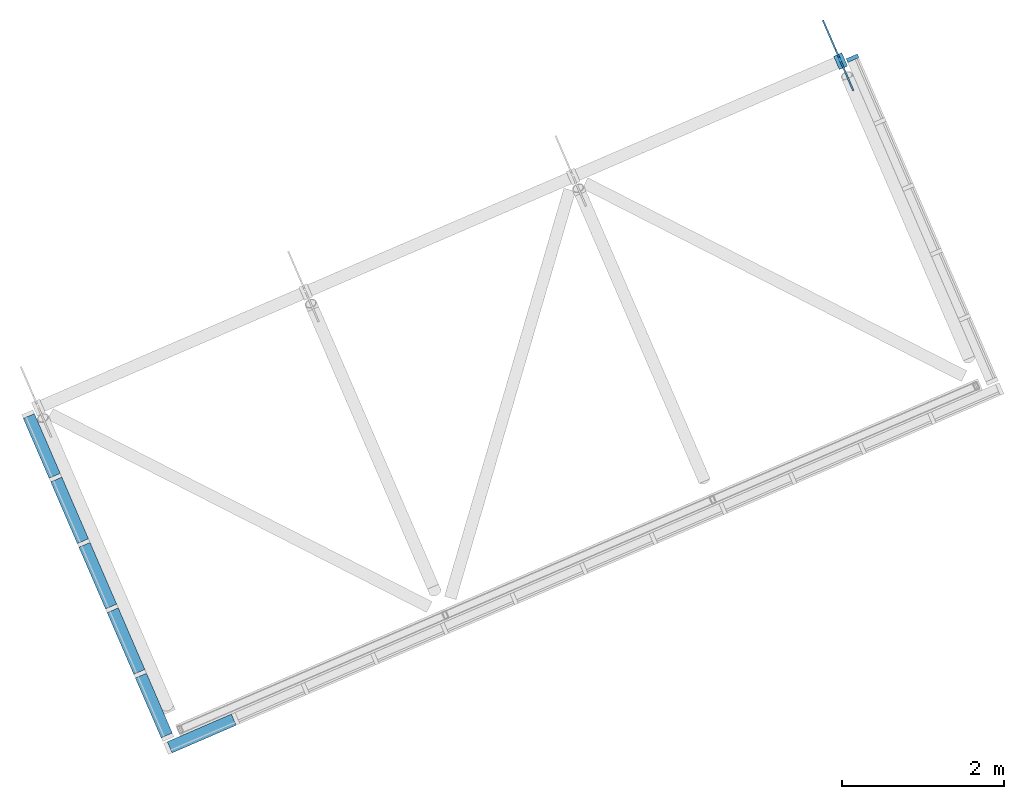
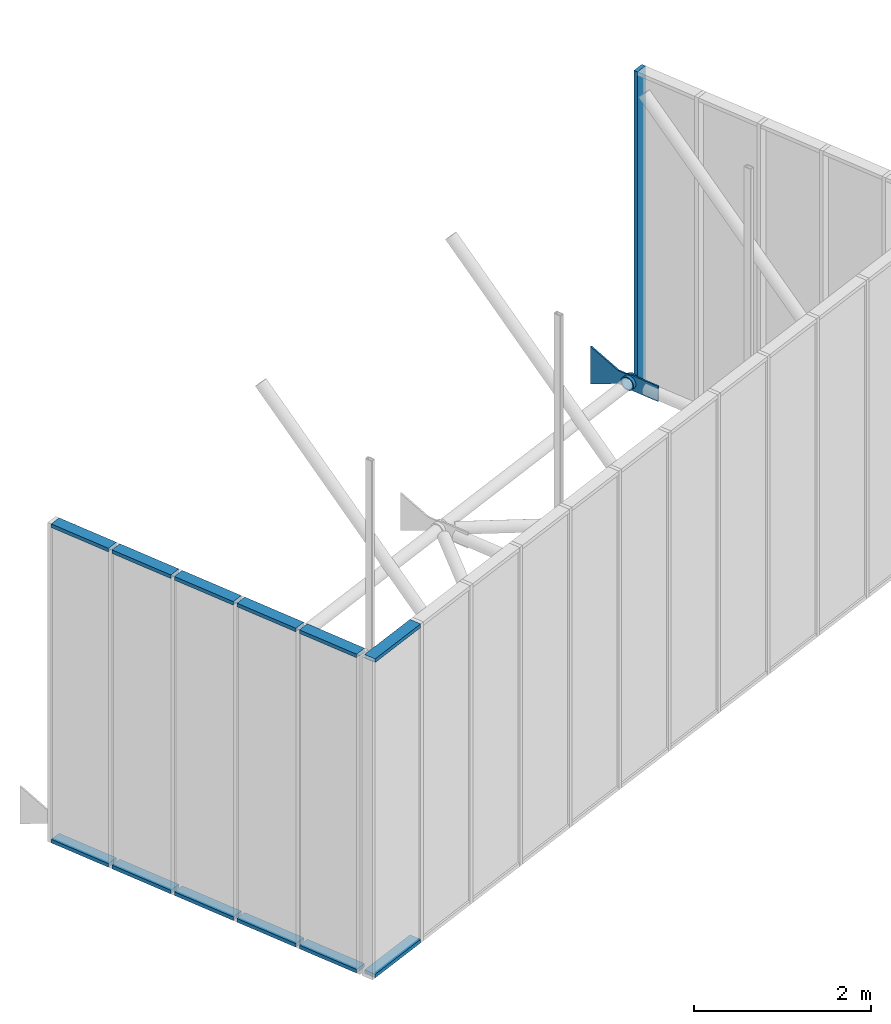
# One storey, part 4 of 5: 14 members, 3 elements without a shape of their own.
"""IFC4 building model written with IfcOpenShell, lengths in metres."""

from ifc_helpers import new_model, entity, si_unit, converted_unit, derived_unit, direction, frame, origin, place, context, subcontext, project, spatial, indexed_curve, outline, extrude, polygons, source, transform, mapped, material, type_object, type_shapes, element, aggregate, save


model = new_model("IFC4")

# Units and contexts
model_context = context("Model", 3, precision=1e-05, world=origin(), true_north=direction((6.12323399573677e-17, 1.0)))
body_context = subcontext(model_context, "Body", "Model", "MODEL_VIEW")
ifc_project = project(units=[si_unit("LENGTHUNIT", "METRE"), si_unit("AREAUNIT", "SQUARE_METRE"), si_unit("VOLUMEUNIT", "CUBIC_METRE"), converted_unit("PLANEANGLEUNIT", "DEGREE", entity("IfcPlaneAngleMeasure", 0.0174532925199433), si_unit("PLANEANGLEUNIT", "RADIAN"), dimensions=[0, 0, 0, 0, 0, 0, 0]), si_unit("MASSUNIT", "GRAM", prefix="KILO"), derived_unit("MOMENTOFINERTIAUNIT", [(si_unit("LENGTHUNIT", "METRE"), 4)]), derived_unit("LINEARFORCEUNIT", [(si_unit("MASSUNIT", "GRAM", prefix="KILO"), 1), (si_unit("TIMEUNIT", "SECOND"), -2)]), derived_unit("THERMALTRANSMITTANCEUNIT", [(si_unit("MASSUNIT", "GRAM", prefix="KILO"), 1), (si_unit("THERMODYNAMICTEMPERATUREUNIT", "KELVIN"), -1), (si_unit("TIMEUNIT", "SECOND"), -3)]), derived_unit("USERDEFINED", [(si_unit("MASSUNIT", "GRAM", prefix="KILO"), 1), (si_unit("TIMEUNIT", "SECOND"), -2), (si_unit("THERMODYNAMICTEMPERATUREUNIT", "KELVIN"), -1)]), derived_unit("THERMALRESISTANCEUNIT", [(si_unit("MASSUNIT", "GRAM", prefix="KILO"), -1), (si_unit("TIMEUNIT", "SECOND"), 3), (si_unit("THERMODYNAMICTEMPERATUREUNIT", "KELVIN"), 1)])], contexts=[model_context])

# Site, building, storey
site_placement = place(None, origin())
site = spatial("IfcSite", under=ifc_project, at=site_placement, Name="Default", CompositionType="ELEMENT")
building_placement = place(site_placement, frame((4.92348780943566, -84.5603392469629, 320.975), z_axis=(0.0, 0.0, 1.0), x_axis=(-0.396377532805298, 0.918087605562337, 0.0)))
building = spatial("IfcBuilding", under=site, at=building_placement, CompositionType="ELEMENT")
storey_placement = place(building_placement, origin())
storey = spatial("IfcBuildingStorey", under=building, at=storey_placement, Name="Level 1", CompositionType="ELEMENT", Elevation=0.0)

# Member
ifc_material_1 = material(Name="<Unnamed>")
member_type_1 = type_object("IfcMemberType", Name="Union Metalica 2:Union Metalica 2", PredefinedType="PLATE", material=ifc_material_1)
shared_shape_1 = source(origin(), body_context, "Body", "Tessellation", [
    polygons([(-0.0550000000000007, 0.09, -3.06066939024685e-24), (-0.0550000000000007, 0.0869333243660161, 0.0232937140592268), (-0.0550000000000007, 0.0779422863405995, 0.045), (-0.0550000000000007, 0.0636396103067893, 0.0636396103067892), (-0.0550000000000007, 0.0450000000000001, 0.0779422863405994), (-0.0550000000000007, 0.023293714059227, 0.0869333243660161), (-0.0550000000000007, 1.2541499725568e-16, 0.09), (-0.0550000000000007, -0.0232937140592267, 0.0869333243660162), (-0.0550000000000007, -0.0449999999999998, 0.0779422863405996), (-0.0550000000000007, -0.0636396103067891, 0.0636396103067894), (-0.0550000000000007, -0.0779422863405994, 0.0450000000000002), (-0.0550000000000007, -0.0869333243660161, 0.0232937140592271), (-0.0550000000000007, -0.09, 2.5082999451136e-16), (-0.010000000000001, -0.09, 2.5082999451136e-16), (-0.010000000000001, -0.0873808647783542, 0.0215542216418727), (-0.010000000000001, -0.0796777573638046, 0.041850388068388), (-0.010000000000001, -0.0673410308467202, 0.0597091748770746), (-0.010000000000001, -0.0510895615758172, 0.0740935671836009), (-0.010000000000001, -0.0318689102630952, 0.0841687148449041), (-0.010000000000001, -0.0107964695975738, 0.0893500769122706), (-0.010000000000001, 0.0108991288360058, 0.0893376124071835), (-0.010000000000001, 0.0319573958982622, 0.0841351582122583), (-0.010000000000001, 0.0511587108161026, 0.0740458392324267), (-0.010000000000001, 0.0673877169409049, 0.0596564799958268), (-0.010000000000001, 0.0797022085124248, 0.0418038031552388), (-0.010000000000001, 0.0873879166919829, 0.0215256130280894), (-0.010000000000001, 0.09, -1.53033469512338e-24), (-0.0550000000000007, 0.075, 1.16416504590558e-24), (-0.0550000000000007, 0.0724444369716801, -0.019411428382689), (-0.0550000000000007, 0.0649519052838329, -0.0375), (-0.0550000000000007, 0.0530330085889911, -0.053033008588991), (-0.0550000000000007, 0.0375000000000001, -0.0649519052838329), (-0.0550000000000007, 0.0194114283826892, -0.0724444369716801), (-0.0550000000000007, 1.04512497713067e-16, -0.075), (-0.0550000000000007, -0.019411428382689, -0.0724444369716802), (-0.0550000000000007, -0.0374999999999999, -0.064951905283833), (-0.0550000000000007, -0.0530330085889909, -0.0530330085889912), (-0.0550000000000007, -0.0649519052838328, -0.0375000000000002), (-0.0550000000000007, -0.0724444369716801, -0.0194114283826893), (-0.0550000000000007, -0.075, -2.09024995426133e-16), (-0.010000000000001, -0.075, -7.08625356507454e-16), (-0.010000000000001, -0.0724444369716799, -0.0194114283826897), (-0.010000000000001, -0.0649519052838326, -0.0375000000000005), (-0.010000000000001, -0.0530330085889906, -0.0530330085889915), (-0.010000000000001, -0.0374999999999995, -0.0649519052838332), (-0.010000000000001, -0.0194114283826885, -0.0724444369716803), (-0.010000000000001, 6.20766204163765e-16, -0.075), (-0.010000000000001, 0.0194114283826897, -0.07244443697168), (-0.010000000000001, 0.0375000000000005, -0.0649519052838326), (-0.010000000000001, 0.0530330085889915, -0.0530330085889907), (-0.010000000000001, 0.0649519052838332, -0.0374999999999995), (-0.010000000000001, 0.0724444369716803, -0.0194114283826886), (-0.010000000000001, 0.075, 1.16416504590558e-24), (-0.010000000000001, 9.64730297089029e-16, 0.105), (0.00999999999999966, 9.64730297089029e-16, 0.105), (0.00999999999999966, 0.0188818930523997, 0.103288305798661), (0.00999999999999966, 0.0370576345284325, 0.0982432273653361), (0.00999999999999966, 0.0540832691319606, 0.0899999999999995), (-0.010000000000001, 0.0540832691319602, 0.0899999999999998), (-0.010000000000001, 0.0370576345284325, 0.0982432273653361), (-0.010000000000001, 0.0188818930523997, 0.103288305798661), (-0.0550000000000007, -0.0869333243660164, -0.023293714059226), (-0.0550000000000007, -0.0779422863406, -0.0449999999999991), (-0.0550000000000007, -0.0636396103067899, -0.0636396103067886), (-0.0550000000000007, -0.0450000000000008, -0.077942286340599), (-0.0550000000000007, -0.0232937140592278, -0.0869333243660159), (-0.0550000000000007, -9.75765425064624e-16, -0.09), (-0.0550000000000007, 0.0232937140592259, -0.0869333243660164), (-0.0550000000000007, 0.0449999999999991, -0.0779422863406), (-0.0550000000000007, 0.0636396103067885, -0.06363961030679), (-0.0550000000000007, 0.0779422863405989, -0.045000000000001), (-0.0550000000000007, 0.0869333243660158, -0.0232937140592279), (-0.010000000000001, 0.0873879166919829, -0.0215256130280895), (-0.010000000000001, 0.0797022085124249, -0.0418038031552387), (-0.010000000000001, 0.0673877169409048, -0.0596564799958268), (-0.010000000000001, 0.0511587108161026, -0.0740458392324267), (-0.010000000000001, 0.0319573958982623, -0.0841351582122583), (-0.010000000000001, 0.0108991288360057, -0.0893376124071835), (-0.010000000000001, -0.010796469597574, -0.0893500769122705), (-0.010000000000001, -0.0318689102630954, -0.0841687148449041), (-0.010000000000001, -0.0510895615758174, -0.0740935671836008), (-0.010000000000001, -0.0673410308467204, -0.0597091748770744), (-0.010000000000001, -0.0796777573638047, -0.0418503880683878), (-0.010000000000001, -0.0873808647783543, -0.0215542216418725), (-0.0550000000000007, -0.0724444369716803, 0.0194114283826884), (-0.0550000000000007, -0.0649519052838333, 0.0374999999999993), (-0.0550000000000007, -0.0530330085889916, 0.0530330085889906), (-0.0550000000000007, -0.0375000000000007, 0.0649519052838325), (-0.0550000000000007, -0.0194114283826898, 0.0724444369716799), (-0.0550000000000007, -8.1313785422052e-16, 0.075), (-0.0550000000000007, 0.0194114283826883, 0.0724444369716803), (-0.0550000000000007, 0.0374999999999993, 0.0649519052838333), (-0.0550000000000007, 0.0530330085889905, 0.0530330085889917), (-0.0550000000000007, 0.0649519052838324, 0.0375000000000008), (-0.0550000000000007, 0.0724444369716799, 0.01941142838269), (-0.010000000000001, 0.0724444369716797, 0.0194114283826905), (-0.010000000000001, 0.0649519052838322, 0.0375000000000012), (-0.010000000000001, 0.0530330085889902, 0.053033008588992), (-0.010000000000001, 0.0374999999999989, 0.0649519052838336), (-0.010000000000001, 0.0194114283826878, 0.0724444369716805), (-0.010000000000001, -1.27943152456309e-15, 0.075), (-0.010000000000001, -0.0194114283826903, 0.0724444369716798), (-0.010000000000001, -0.0375000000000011, 0.0649519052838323), (-0.010000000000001, -0.0530330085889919, 0.0530330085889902), (-0.010000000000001, -0.0649519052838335, 0.0374999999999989), (-0.010000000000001, -0.0724444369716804, 0.0194114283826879), (0.00999999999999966, -0.4, 0.105000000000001), (0.00999999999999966, -0.400000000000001, -0.104999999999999), (0.00999999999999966, -3.38395977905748e-16, -0.105), (0.00999999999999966, 0.0188812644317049, -0.10328842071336), (0.00999999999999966, 0.0370597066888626, -0.0982424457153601), (0.00999999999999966, 0.0540832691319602, -0.0899999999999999), (0.00999999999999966, 0.16, -0.0899999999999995), (0.00999999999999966, 0.55, -0.26), (0.00999999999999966, 0.55, 0.26), (0.00999999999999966, 0.16, 0.0899999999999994), (0.00999999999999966, 0.09, -5.75273162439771e-16), (0.00999999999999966, 0.0873879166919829, -0.0215256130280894), (0.00999999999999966, 0.0797022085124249, -0.0418038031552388), (0.00999999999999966, 0.0673877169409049, -0.0596564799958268), (0.00999999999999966, 0.0511587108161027, -0.0740458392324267), (0.00999999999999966, 0.0319573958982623, -0.0841351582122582), (0.00999999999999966, 0.0108991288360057, -0.0893376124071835), (0.00999999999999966, -0.010796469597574, -0.0893500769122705), (0.00999999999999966, -0.0318689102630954, -0.0841687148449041), (0.00999999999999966, -0.0510895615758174, -0.0740935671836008), (0.00999999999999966, -0.0673410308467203, -0.0597091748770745), (0.00999999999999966, -0.0796777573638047, -0.0418503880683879), (0.00999999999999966, -0.0873808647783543, -0.0215542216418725), (0.00999999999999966, -0.09, -3.38395977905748e-16), (0.00999999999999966, -0.0873879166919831, 0.0215256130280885), (0.00999999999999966, -0.0797022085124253, 0.041803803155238), (0.00999999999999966, -0.0673877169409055, 0.0596564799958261), (0.00999999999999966, -0.0511587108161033, 0.0740458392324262), (0.00999999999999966, -0.0319573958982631, 0.0841351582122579), (0.00999999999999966, -0.0108991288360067, 0.0893376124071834), (0.00999999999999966, 0.0107964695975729, 0.0893500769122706), (0.00999999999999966, 0.0318689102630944, 0.0841687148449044), (0.00999999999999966, 0.0510895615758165, 0.0740935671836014), (0.00999999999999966, 0.0673410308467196, 0.0597091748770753), (0.00999999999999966, 0.0796777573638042, 0.0418503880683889), (0.00999999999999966, 0.087380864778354, 0.0215542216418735), (-0.010000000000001, -0.4, 0.105000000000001), (-0.010000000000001, 0.16, 0.0899999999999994), (-0.010000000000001, 0.55, 0.26), (-0.010000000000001, 0.55, -0.26), (-0.010000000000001, 0.16, -0.0899999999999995), (-0.010000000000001, 0.0540832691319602, -0.0899999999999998), (-0.010000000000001, 0.0370597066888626, -0.0982424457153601), (-0.010000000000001, 0.0188812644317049, -0.10328842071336), (-0.010000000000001, -3.38395977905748e-16, -0.105), (-0.010000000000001, -0.400000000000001, -0.104999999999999), (0.00999999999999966, -0.075, -2.10923499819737e-16), (0.00999999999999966, 0.075, 8.82445156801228e-16), (0.00999999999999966, 0.0724444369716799, 0.01941142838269), (0.00999999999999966, 0.0649519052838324, 0.0375000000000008), (0.00999999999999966, 0.0530330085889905, 0.0530330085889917), (0.00999999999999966, 0.0374999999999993, 0.0649519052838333), (0.00999999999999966, 0.0194114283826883, 0.0724444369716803), (0.00999999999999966, -8.14361081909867e-16, 0.075), (0.00999999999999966, -0.0194114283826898, 0.0724444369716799), (0.00999999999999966, -0.0375000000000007, 0.0649519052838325), (0.00999999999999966, -0.0530330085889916, 0.0530330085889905), (0.00999999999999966, -0.0649519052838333, 0.0374999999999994), (0.00999999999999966, -0.0724444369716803, 0.0194114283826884), (0.00999999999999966, -0.07244443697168, -0.0194114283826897), (0.00999999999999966, -0.0649519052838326, -0.0375000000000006), (0.00999999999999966, -0.0530330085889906, -0.0530330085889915), (0.00999999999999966, -0.0374999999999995, -0.0649519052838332), (0.00999999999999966, -0.0194114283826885, -0.0724444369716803), (0.00999999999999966, 6.21259333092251e-16, -0.075), (0.00999999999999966, 0.0194114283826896, -0.07244443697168), (0.00999999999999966, 0.0375000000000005, -0.0649519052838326), (0.00999999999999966, 0.0530330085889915, -0.0530330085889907), (0.00999999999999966, 0.0649519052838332, -0.0374999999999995), (0.00999999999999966, 0.0724444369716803, -0.0194114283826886), (0.0549999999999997, -0.09, 2.90798023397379e-16), (0.0549999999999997, -0.0869333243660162, -0.0232937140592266), (0.0549999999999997, -0.0779422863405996, -0.0449999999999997), (0.0549999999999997, -0.0636396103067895, -0.063639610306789), (0.0549999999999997, -0.0450000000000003, -0.0779422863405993), (0.0549999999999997, -0.0232937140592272, -0.086933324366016), (0.0549999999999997, -4.22994972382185e-16, -0.09), (0.0549999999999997, 0.0232937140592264, -0.0869333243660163), (0.0549999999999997, 0.0449999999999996, -0.0779422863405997), (0.0549999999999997, 0.0636396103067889, -0.0636396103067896), (0.0549999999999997, 0.0779422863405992, -0.0450000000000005), (0.0549999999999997, 0.086933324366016, -0.0232937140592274), (0.0549999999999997, 0.09, -4.92430958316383e-28), (0.0549999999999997, 0.0869333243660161, 0.0232937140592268), (0.0549999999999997, 0.0779422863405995, 0.045), (0.0549999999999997, 0.0636396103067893, 0.0636396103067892), (0.0549999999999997, 0.0450000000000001, 0.0779422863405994), (0.0549999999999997, 0.023293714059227, 0.0869333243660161), (0.0549999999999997, 1.18438592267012e-16, 0.09), (0.0549999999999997, -0.0232937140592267, 0.0869333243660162), (0.0549999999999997, -0.0449999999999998, 0.0779422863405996), (0.0549999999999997, -0.0636396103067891, 0.0636396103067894), (0.0549999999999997, -0.0779422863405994, 0.0450000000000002), (0.0549999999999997, -0.0869333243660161, 0.0232937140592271), (0.0549999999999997, -0.075, -2.42331686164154e-16), (0.0549999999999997, -0.0724444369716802, 0.0194114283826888), (0.0549999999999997, -0.064951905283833, 0.0374999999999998), (0.0549999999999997, -0.0530330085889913, 0.0530330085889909), (0.0549999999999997, -0.0375000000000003, 0.0649519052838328), (0.0549999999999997, -0.0194114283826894, 0.07244443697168), (0.0549999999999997, -3.38395977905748e-16, 0.075), (0.0549999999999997, 0.0194114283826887, 0.0724444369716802), (0.0549999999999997, 0.0374999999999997, 0.0649519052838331), (0.0549999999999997, 0.0530330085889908, 0.0530330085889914), (0.0549999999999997, 0.0649519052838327, 0.0375000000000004), (0.0549999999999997, 0.07244443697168, 0.0194114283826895), (0.0549999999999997, 0.075, -4.92430958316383e-28), (0.0549999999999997, 0.0724444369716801, -0.019411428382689), (0.0549999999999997, 0.0649519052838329, -0.0375), (0.0549999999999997, 0.0530330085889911, -0.053033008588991), (0.0549999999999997, 0.0375000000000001, -0.0649519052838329), (0.0549999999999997, 0.0194114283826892, -0.0724444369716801), (0.0549999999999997, 1.01518793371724e-16, -0.075), (0.0549999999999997, -0.0194114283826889, -0.0724444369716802), (0.0549999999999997, -0.0374999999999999, -0.064951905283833), (0.0549999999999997, -0.0530330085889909, -0.0530330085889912), (0.0549999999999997, -0.0649519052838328, -0.0375000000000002), (0.0549999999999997, -0.0724444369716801, -0.0194114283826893)], [[[2, 26, 1]], [[3, 25, 2]], [[23, 4, 5]], [[3, 4, 24]], [[22, 5, 6]], [[2, 25, 26]], [[26, 27, 1]], [[22, 23, 5]], [[24, 4, 23]], [[24, 25, 3]], [[21, 22, 6]], [[6, 7, 21]], [[20, 7, 8]], [[19, 8, 9]], [[11, 12, 16]], [[17, 10, 11]], [[9, 10, 18]], [[15, 12, 13]], [[19, 20, 8]], [[18, 19, 9]], [[18, 10, 17]], [[11, 16, 17]], [[15, 16, 12]], [[13, 14, 15]], [[7, 20, 21]], [[53, 28, 29, 52, 176, 214, 213, 154]], [[52, 29, 30, 51, 175, 215, 214, 176]], [[49, 173, 217, 216, 174, 50, 31, 32]], [[31, 50, 174, 216, 215, 175, 51, 30]], [[48, 172, 218, 217, 173, 49, 32, 33]], [[48, 33, 34, 47, 171, 219, 218, 172]], [[44, 168, 222, 221, 169, 45, 36, 37]], [[42, 166, 224, 223, 167, 43, 38, 39]], [[37, 38, 43, 167, 223, 222, 168, 44]], [[41, 153, 201, 224, 166, 42, 39, 40]], [[36, 45, 169, 221, 220, 170, 46, 35]], [[46, 170, 220, 219, 171, 47, 34, 35]], [[59, 60, 57, 58]], [[60, 61, 56, 57]], [[61, 54, 55, 56]], [[62, 84, 13]], [[63, 83, 62]], [[81, 64, 65]], [[63, 64, 82]], [[80, 65, 66]], [[62, 83, 84]], [[84, 14, 13]], [[130, 129, 177]], [[80, 81, 65]], [[82, 64, 81]], [[82, 83, 63]], [[79, 80, 66]], [[66, 67, 79]], [[68, 78, 67]], [[69, 77, 68]], [[75, 70, 71]], [[72, 1, 73]], [[69, 70, 76]], [[74, 71, 72]], [[69, 76, 77]], [[77, 78, 68]], [[27, 73, 1]], [[118, 117, 189]], [[76, 70, 75]], [[74, 75, 71]], [[73, 74, 72]], [[67, 78, 79]], [[41, 40, 85, 106, 165, 202, 201, 153]], [[106, 85, 86, 105, 164, 203, 202, 165]], [[103, 162, 205, 204, 163, 104, 87, 88]], [[87, 104, 163, 204, 203, 164, 105, 86]], [[102, 161, 206, 205, 162, 103, 88, 89]], [[102, 89, 90, 101, 160, 207, 206, 161]], [[100, 159, 208, 207, 160, 101, 90, 91]], [[99, 158, 209, 208, 159, 100, 91, 92]], [[96, 155, 212, 211, 156, 97, 94, 95]], [[53, 154, 213, 212, 155, 96, 95, 28]], [[92, 93, 98, 157, 210, 209, 158, 99]], [[93, 94, 97, 156, 211, 210, 157, 98]], [[55, 107, 108, 109, 110, 111, 112, 113, 114, 115, 116, 58, 57, 56], [136, 137, 138, 139, 140, 141, 142, 117, 118, 119, 120, 121, 122, 123, 124, 125, 126, 127, 128, 129, 130, 131, 132, 133, 134, 135]], [[185, 186, 187, 188, 189, 190, 191, 192, 193, 194, 195, 196, 197, 198, 199, 200, 177, 178, 179, 180, 181, 182, 183, 184], [217, 218, 219, 220, 221, 222, 223, 224, 201, 202, 203, 204, 205, 206, 207, 208, 209, 210, 211, 212, 213, 214, 215, 216]], [[151, 152, 143, 54, 61, 60, 59, 144, 145, 146, 147, 148, 149, 150], [79, 78, 77, 76, 75, 74, 73, 27, 26, 25, 24, 23, 22, 21, 20, 19, 18, 17, 16, 15, 14, 84, 83, 82, 81, 80]], [[5, 4, 3, 2, 1, 72, 71, 70, 69, 68, 67, 66, 65, 64, 63, 62, 13, 12, 11, 10, 9, 8, 7, 6], [92, 91, 90, 89, 88, 87, 86, 85, 40, 39, 38, 37, 36, 35, 34, 33, 32, 31, 30, 29, 28, 95, 94, 93]], [[108, 107, 143, 152]], [[109, 108, 152, 151]], [[113, 112, 148, 147]], [[151, 150, 110, 109]], [[150, 149, 111, 110]], [[149, 148, 112, 111]], [[107, 55, 54, 143]], [[58, 116, 144, 59]], [[128, 127, 179]], [[129, 128, 178]], [[125, 124, 182]], [[126, 125, 181]], [[127, 126, 180]], [[129, 178, 177]], [[179, 127, 180]], [[128, 179, 178]], [[181, 180, 126]], [[125, 182, 181]], [[124, 183, 182]], [[122, 121, 185]], [[123, 122, 184]], [[119, 118, 188]], [[187, 120, 119]], [[120, 186, 121]], [[122, 185, 184]], [[184, 183, 123]], [[189, 188, 118]], [[186, 185, 121]], [[187, 186, 120]], [[119, 188, 187]], [[123, 183, 124]], [[141, 140, 191]], [[142, 141, 190]], [[138, 137, 194]], [[139, 138, 193]], [[140, 139, 192]], [[117, 142, 189]], [[142, 190, 189]], [[191, 140, 192]], [[141, 191, 190]], [[193, 192, 139]], [[138, 194, 193]], [[137, 195, 194]], [[196, 136, 135]], [[134, 197, 135]], [[198, 134, 133]], [[131, 130, 177]], [[199, 133, 132]], [[200, 132, 131]], [[196, 195, 136]], [[197, 196, 135]], [[198, 133, 199]], [[199, 132, 200]], [[197, 134, 198]], [[177, 200, 131]], [[136, 195, 137]], [[116, 115, 145, 144]], [[114, 113, 147, 146]], [[115, 114, 146, 145]]], closed=True),
])
type_shapes(member_type_1, [shared_shape_1])
member_1_placement = place(storey_placement, frame((2.27316058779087, -5.08882295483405, 0.0), z_axis=(0.0, 0.0, 1.0), x_axis=(0.0, -1.0, 0.0)))
element("IfcMember", 1, at=member_1_placement, inside=storey, type_object=member_type_1, material=ifc_material_1, Name="Union Metalica 2:Union Metalica 2", ObjectType="Union Metalica 2:Union Metalica 2", PredefinedType="PLATE", context=body_context, shape_type="MappedRepresentation", body=[
    mapped(shared_shape_1, transform((0.0, 0.0, 0.0), scale=1.0)),
])

# Curtain wall, members
curtain_wall_type = type_object("IfcCurtainWallType", Name="Curtain Wall:MC1", PredefinedType="NOTDEFINED")
curtain_wall_1_placement = place(storey_placement, origin())
curtain_wall_1 = element("IfcCurtainWall", 2, at=curtain_wall_1_placement, inside=storey, type_object=curtain_wall_type, Name="Curtain Wall:MC1", ObjectType="Curtain Wall:MC1", PredefinedType="NOTDEFINED")
ifc_material_2 = material(Name="Aluminum", Category="Metal")
member_type_2 = type_object("IfcMemberType", Name="Rectangular Mullion:50mm x 150mm", PredefinedType="MULLION", material=ifc_material_2)
shared_shape_2 = source(origin(), body_context, "Body", "SweptSolid", [
    extrude(outline(indexed_curve([(-0.025, -0.075), (0.025, -0.075), (0.025, 0.075), (-0.025, 0.075), (-0.025, -0.075)], self_intersect=False)), frame((-0.025, 0.0, -0.805000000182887), z_axis=(0.0, 0.0, 1.0), x_axis=(-1.0, 0.0, 0.0)), (0.0, 0.0, 1.0), 0.805000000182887),
])
type_shapes(member_type_2, [shared_shape_2])
member_2_placement = place(curtain_wall_1_placement, frame((2.22316058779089, 5.86117704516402, 4.25), z_axis=(1.0, 0.0, 0.0), x_axis=(0.0, 0.0, 1.0)))
member_2 = element("IfcMember", 3, at=member_2_placement, type_object=member_type_2, material=ifc_material_2, Name="Rectangular Mullion:50mm x 150mm", ObjectType="Rectangular Mullion:50mm x 150mm", PredefinedType="MULLION", context=body_context, shape_type="MappedRepresentation", body=[
    mapped(shared_shape_2, transform((0.0, 0.0, 0.0), scale=1.0)),
])
member_3_placement = place(curtain_wall_1_placement, frame((-1.27183941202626, 5.86117704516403, 4.25), z_axis=(1.0, 0.0, 0.0), x_axis=(0.0, 0.0, 1.0)))
member_3 = element("IfcMember", 4, at=member_3_placement, type_object=member_type_2, material=ifc_material_2, Name="Rectangular Mullion:50mm x 150mm", ObjectType="Rectangular Mullion:50mm x 150mm", PredefinedType="MULLION", context=body_context, shape_type="MappedRepresentation", body=[
    mapped(shared_shape_2, transform((0.0, 0.0, 0.0), scale=1.0)),
])
member_type_3 = type_object("IfcMemberType", Name="Rectangular Mullion:50mm x 150mm", PredefinedType="MULLION", material=ifc_material_2)
shared_shape_3 = source(origin(), body_context, "Body", "SweptSolid", [
    extrude(outline(indexed_curve([(-0.025, -0.075), (0.025, -0.075), (0.025, 0.075), (-0.025, 0.075), (-0.025, -0.075)], self_intersect=False)), frame((-0.025, 0.0, -0.829999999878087), z_axis=(0.0, 0.0, 1.0), x_axis=(-1.0, 0.0, 0.0)), (0.0, 0.0, 1.0), 0.829999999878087),
])
type_shapes(member_type_3, [shared_shape_3])
member_4_placement = place(curtain_wall_1_placement, frame((-0.391839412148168, 5.86117704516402, 4.25), z_axis=(1.0, 0.0, 0.0), x_axis=(0.0, 0.0, 1.0)))
member_4 = element("IfcMember", 5, at=member_4_placement, type_object=member_type_3, material=ifc_material_2, Name="Rectangular Mullion:50mm x 150mm", ObjectType="Rectangular Mullion:50mm x 150mm", PredefinedType="MULLION", context=body_context, shape_type="MappedRepresentation", body=[
    mapped(shared_shape_3, transform((0.0, 0.0, 0.0), scale=1.0)),
])
member_5_placement = place(curtain_wall_1_placement, frame((0.488160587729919, 5.86117704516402, 4.25), z_axis=(1.0, 0.0, 0.0), x_axis=(0.0, 0.0, 1.0)))
member_5 = element("IfcMember", 6, at=member_5_placement, type_object=member_type_3, material=ifc_material_2, Name="Rectangular Mullion:50mm x 150mm", ObjectType="Rectangular Mullion:50mm x 150mm", PredefinedType="MULLION", context=body_context, shape_type="MappedRepresentation", body=[
    mapped(shared_shape_3, transform((0.0, 0.0, 0.0), scale=1.0)),
])
member_6_placement = place(curtain_wall_1_placement, frame((1.36816058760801, 5.86117704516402, 4.25), z_axis=(1.0, 0.0, 0.0), x_axis=(0.0, 0.0, 1.0)))
member_6 = element("IfcMember", 7, at=member_6_placement, type_object=member_type_3, material=ifc_material_2, Name="Rectangular Mullion:50mm x 150mm", ObjectType="Rectangular Mullion:50mm x 150mm", PredefinedType="MULLION", context=body_context, shape_type="MappedRepresentation", body=[
    mapped(shared_shape_3, transform((0.0, 0.0, 0.0), scale=1.0)),
])
member_type_4 = type_object("IfcMemberType", Name="Rectangular Mullion:50mm x 150mm", PredefinedType="MULLION", material=ifc_material_2)
shared_shape_4 = source(origin(), body_context, "Body", "SweptSolid", [
    extrude(outline(indexed_curve([(-0.025, -0.075), (0.025, -0.075), (0.025, 0.075), (-0.025, 0.075), (-0.025, -0.075)], self_intersect=False)), frame((-0.025, 0.0, -0.805000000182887), z_axis=(0.0, 0.0, 1.0), x_axis=(-1.0, 0.0, 0.0)), (0.0, 0.0, 1.0), 0.805000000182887),
])
type_shapes(member_type_4, [shared_shape_4])
member_7_placement = place(curtain_wall_1_placement, frame((-2.07683941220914, 5.86117704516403, -0.15), z_axis=(-1.0, 0.0, 0.0), x_axis=(0.0, 0.0, -1.0)))
member_7 = element("IfcMember", 8, at=member_7_placement, type_object=member_type_4, material=ifc_material_2, Name="Rectangular Mullion:50mm x 150mm", ObjectType="Rectangular Mullion:50mm x 150mm", PredefinedType="MULLION", context=body_context, shape_type="MappedRepresentation", body=[
    mapped(shared_shape_4, transform((0.0, 0.0, 0.0), scale=1.0)),
])
member_8_placement = place(curtain_wall_1_placement, frame((1.41816058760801, 5.86117704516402, -0.15), z_axis=(-1.0, 0.0, 0.0), x_axis=(0.0, 0.0, -1.0)))
member_8 = element("IfcMember", 9, at=member_8_placement, type_object=member_type_4, material=ifc_material_2, Name="Rectangular Mullion:50mm x 150mm", ObjectType="Rectangular Mullion:50mm x 150mm", PredefinedType="MULLION", context=body_context, shape_type="MappedRepresentation", body=[
    mapped(shared_shape_4, transform((0.0, 0.0, 0.0), scale=1.0)),
])
member_type_5 = type_object("IfcMemberType", Name="Rectangular Mullion:50mm x 150mm", PredefinedType="MULLION", material=ifc_material_2)
shared_shape_5 = source(origin(), body_context, "Body", "SweptSolid", [
    extrude(outline(indexed_curve([(-0.025, -0.075), (0.025, -0.075), (0.025, 0.075), (-0.025, 0.075), (-0.025, -0.075)], self_intersect=False)), frame((-0.025, 0.0, -0.829999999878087), z_axis=(0.0, 0.0, 1.0), x_axis=(-1.0, 0.0, 0.0)), (0.0, 0.0, 1.0), 0.829999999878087),
])
type_shapes(member_type_5, [shared_shape_5])
member_9_placement = place(curtain_wall_1_placement, frame((-1.22183941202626, 5.86117704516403, -0.15), z_axis=(-1.0, 0.0, 0.0), x_axis=(0.0, 0.0, -1.0)))
member_9 = element("IfcMember", 10, at=member_9_placement, type_object=member_type_5, material=ifc_material_2, Name="Rectangular Mullion:50mm x 150mm", ObjectType="Rectangular Mullion:50mm x 150mm", PredefinedType="MULLION", context=body_context, shape_type="MappedRepresentation", body=[
    mapped(shared_shape_5, transform((0.0, 0.0, 0.0), scale=1.0)),
])
member_10_placement = place(curtain_wall_1_placement, frame((-0.341839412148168, 5.86117704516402, -0.15), z_axis=(-1.0, 0.0, 0.0), x_axis=(0.0, 0.0, -1.0)))
member_10 = element("IfcMember", 11, at=member_10_placement, type_object=member_type_5, material=ifc_material_2, Name="Rectangular Mullion:50mm x 150mm", ObjectType="Rectangular Mullion:50mm x 150mm", PredefinedType="MULLION", context=body_context, shape_type="MappedRepresentation", body=[
    mapped(shared_shape_5, transform((0.0, 0.0, 0.0), scale=1.0)),
])
member_11_placement = place(curtain_wall_1_placement, frame((0.538160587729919, 5.86117704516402, -0.15), z_axis=(-1.0, 0.0, 0.0), x_axis=(0.0, 0.0, -1.0)))
member_11 = element("IfcMember", 12, at=member_11_placement, type_object=member_type_5, material=ifc_material_2, Name="Rectangular Mullion:50mm x 150mm", ObjectType="Rectangular Mullion:50mm x 150mm", PredefinedType="MULLION", context=body_context, shape_type="MappedRepresentation", body=[
    mapped(shared_shape_5, transform((0.0, 0.0, 0.0), scale=1.0)),
])
aggregate(curtain_wall_1, [member_2, member_3, member_4, member_7, member_9, member_10, member_5, member_6, member_11, member_8])

# Curtain wall, member
curtain_wall_2_placement = place(storey_placement, origin())
curtain_wall_2 = element("IfcCurtainWall", 13, at=curtain_wall_2_placement, inside=storey, type_object=curtain_wall_type, Name="Curtain Wall:MC1", ObjectType="Curtain Wall:MC1", PredefinedType="NOTDEFINED")
member_type_6 = type_object("IfcMemberType", Name="Rectangular Mullion:50mm x 150mm", PredefinedType="MULLION", material=ifc_material_2)
shared_shape_6 = source(origin(), body_context, "Body", "SweptSolid", [
    extrude(outline(indexed_curve([(-0.025, -0.075), (0.025, -0.075), (0.025, 0.075), (-0.025, 0.075), (-0.025, -0.075)], self_intersect=False)), frame((-0.025, 0.0, -4.4), z_axis=(0.0, 0.0, 1.0), x_axis=(-1.0, 0.0, 0.0)), (0.0, 0.0, 1.0), 4.4),
])
type_shapes(member_type_6, [shared_shape_6])
member_12_placement = place(curtain_wall_2_placement, frame((2.27316058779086, -5.23882295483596, -0.15), z_axis=(0.0, 0.0, -1.0), x_axis=(1.0, 0.0, 0.0)))
member_12 = element("IfcMember", 14, at=member_12_placement, type_object=member_type_6, material=ifc_material_2, Name="Rectangular Mullion:50mm x 150mm", ObjectType="Rectangular Mullion:50mm x 150mm", PredefinedType="MULLION", context=body_context, shape_type="MappedRepresentation", body=[
    mapped(shared_shape_6, transform((0.0, 0.0, 0.0), scale=1.0)),
])
aggregate(curtain_wall_2, [member_12])

# Curtain wall, members
curtain_wall_3_placement = place(storey_placement, origin())
curtain_wall_3 = element("IfcCurtainWall", 15, at=curtain_wall_3_placement, inside=storey, type_object=curtain_wall_type, Name="Curtain Wall:MC1", ObjectType="Curtain Wall:MC1", PredefinedType="NOTDEFINED")
member_type_7 = type_object("IfcMemberType", Name="Rectangular Mullion:50mm x 150mm", PredefinedType="MULLION", material=ifc_material_2)
shared_shape_7 = source(origin(), body_context, "Body", "SweptSolid", [
    extrude(outline(indexed_curve([(-0.025, -0.075), (0.025, -0.075), (0.025, 0.075), (-0.025, 0.075), (-0.025, -0.075)], self_intersect=False)), frame((-0.025, 0.0, -0.862500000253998), z_axis=(0.0, 0.0, 1.0), x_axis=(-1.0, 0.0, 0.0)), (0.0, 0.0, 1.0), 0.862500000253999),
])
type_shapes(member_type_7, [shared_shape_7])
member_13_placement = place(curtain_wall_3_placement, frame((-2.22683941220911, 5.88617704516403, -0.15), z_axis=(0.0, 1.0, 0.0), x_axis=(0.0, 0.0, -1.0)))
member_13 = element("IfcMember", 16, at=member_13_placement, type_object=member_type_7, material=ifc_material_2, Name="Rectangular Mullion:50mm x 150mm", ObjectType="Rectangular Mullion:50mm x 150mm", PredefinedType="MULLION", context=body_context, shape_type="MappedRepresentation", body=[
    mapped(shared_shape_7, transform((0.0, 0.0, 0.0), scale=1.0)),
])
member_type_8 = type_object("IfcMemberType", Name="Rectangular Mullion:50mm x 150mm", PredefinedType="MULLION", material=ifc_material_2)
shared_shape_8 = source(origin(), body_context, "Body", "SweptSolid", [
    extrude(outline(indexed_curve([(-0.025, -0.075), (0.025, -0.075), (0.025, 0.075), (-0.025, 0.075), (-0.025, -0.075)], self_intersect=False)), frame((-0.025, 0.0, -0.862500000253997), z_axis=(0.0, 0.0, 1.0), x_axis=(-1.0, 0.0, 0.0)), (0.0, 0.0, 1.0), 0.862500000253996),
])
type_shapes(member_type_8, [shared_shape_8])
member_14_placement = place(curtain_wall_3_placement, frame((-2.22683941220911, 5.02367704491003, 4.25), z_axis=(0.0, -1.0, 0.0), x_axis=(0.0, 0.0, 1.0)))
member_14 = element("IfcMember", 17, at=member_14_placement, type_object=member_type_8, material=ifc_material_2, Name="Rectangular Mullion:50mm x 150mm", ObjectType="Rectangular Mullion:50mm x 150mm", PredefinedType="MULLION", context=body_context, shape_type="MappedRepresentation", body=[
    mapped(shared_shape_8, transform((0.0, 0.0, 0.0), scale=1.0)),
])
aggregate(curtain_wall_3, [member_13, member_14])

save(model, "model.ifc")
